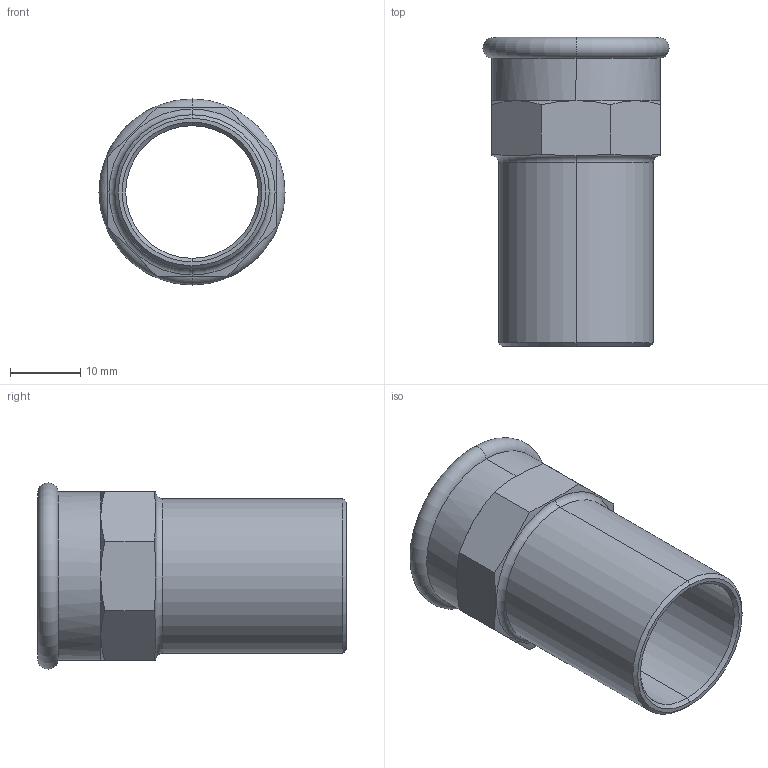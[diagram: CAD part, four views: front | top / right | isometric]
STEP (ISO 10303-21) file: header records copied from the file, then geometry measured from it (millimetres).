
FILE_DESCRIPTION (( 'STEP AP203' ), '1' );
FILE_NAME ('SP4281G Ø22 1-2.STEP', '2017-04-26T09:14:55', ( '' ), ( '' ), 'SwSTEP 2.0', 'SolidWorks 2016', '' );
FILE_SCHEMA (( 'CONFIG_CONTROL_DESIGN' ));
Length unit declared in the file: millimetre
Products named in the file (1): SP4281G Ø22 1-2
Bounding box: 26.5 x 44 x 26.5 mm (x, y, z)
Volume: 5951.8 mm3; surface area: 6172.4 mm2
Topology: 1 solids, 1 shells, 40 faces, 88 edges, 50 vertices
Faces by surface type: cone 18, plane 10, cylinder 8, torus 4
Entity records: 1227 total; most frequent: CARTESIAN_POINT 297, DIRECTION 180, ORIENTED_EDGE 176, EDGE_CURVE 88, AXIS2_PLACEMENT_3D 77, VERTEX_POINT 50, EDGE_LOOP 42, FACE_OUTER_BOUND 40
